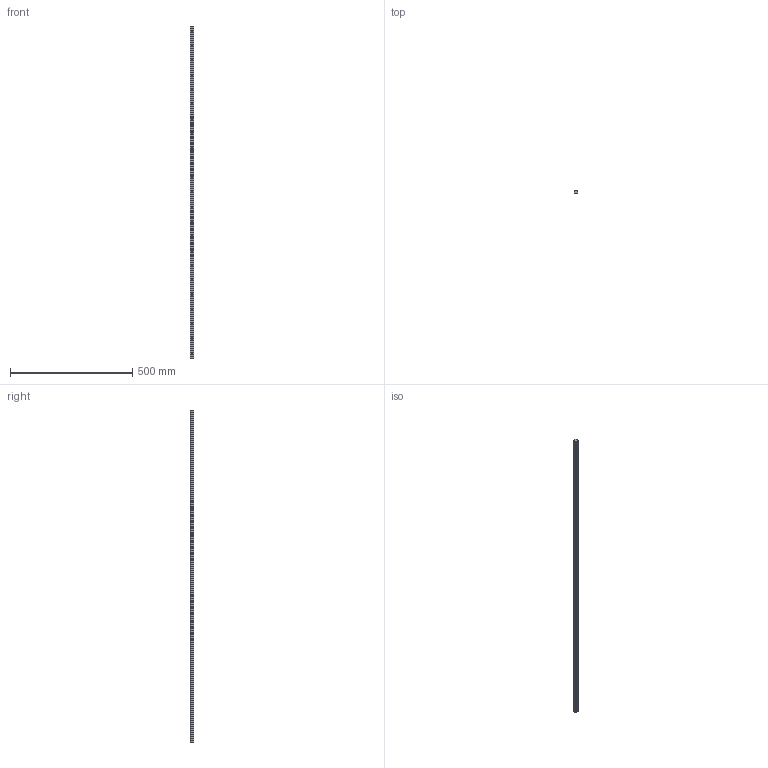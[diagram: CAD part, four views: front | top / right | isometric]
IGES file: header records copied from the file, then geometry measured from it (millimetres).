
Start section: SolidWorks IGES file using analytic representation for surfaces
Global section: file name: C:\Users\IanO\Desktop\L1016_v2\L1016.BL15_v2\L1016.BL15_v2_20190611_IGES\L1016.BL15-1360.igs; native system: SolidWorks 2017; preprocessor: SolidWorks 2017; author: IanO; date: 190612.122830; units: millimetre
Bounding box: 15 x 13 x 1360 mm (x, y, z)
Surface area: 83285.9 mm2 (no closed solid volume)
Topology: 0 solids, 0 shells, 141 faces, 3464 edges, 3464 vertices
Faces by surface type: revolution 96, bspline 45
